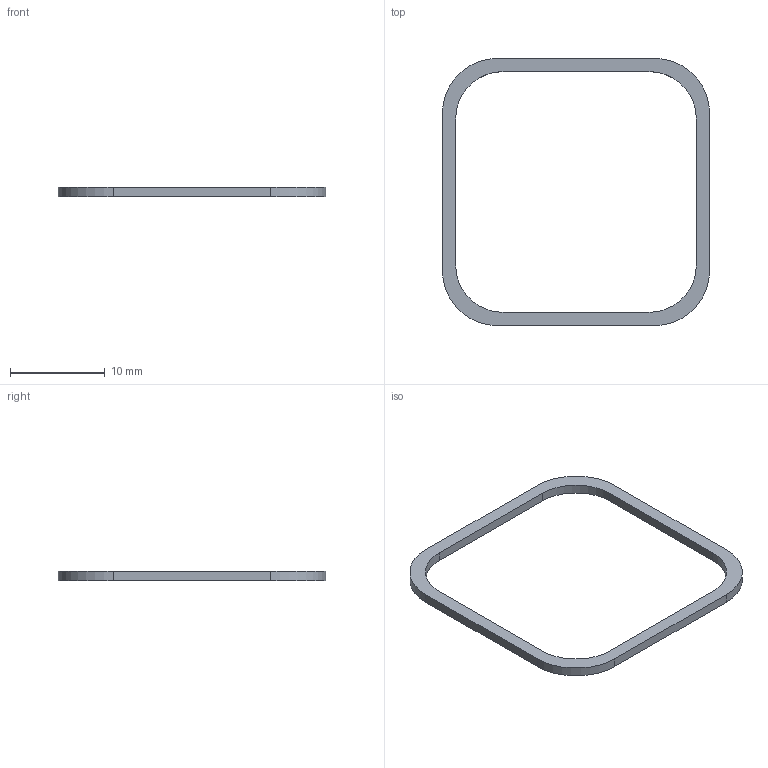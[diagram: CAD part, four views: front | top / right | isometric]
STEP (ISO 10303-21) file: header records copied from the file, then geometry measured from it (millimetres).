
FILE_DESCRIPTION(('Open CASCADE Model'),'2;1');
FILE_NAME('Open CASCADE Shape Model','2026-09-04T20:35:59',('Author'),( 'Open CASCADE'),'Open CASCADE STEP processor 7.7','Open CASCADE 7.7' ,'Unknown');
FILE_SCHEMA(('AUTOMOTIVE_DESIGN { 1 0 10303 214 1 1 1 1 }'));
Length unit declared in the file: millimetre
Products named in the file (1): Open CASCADE STEP translator 7.7 21
Bounding box: 28.2 x 28.2 x 1 mm (x, y, z)
Volume: 142.7 mm3; surface area: 481.2 mm2
Topology: 1 solids, 1 shells, 18 faces, 48 edges, 32 vertices
Faces by surface type: plane 10, cylinder 8
Entity records: 1218 total; most frequent: CARTESIAN_POINT 219, DIRECTION 194, LINE 112, VECTOR 112, ORIENTED_EDGE 96, PCURVE 96, DEFINITIONAL_REPRESENTATION 96, EDGE_CURVE 48
